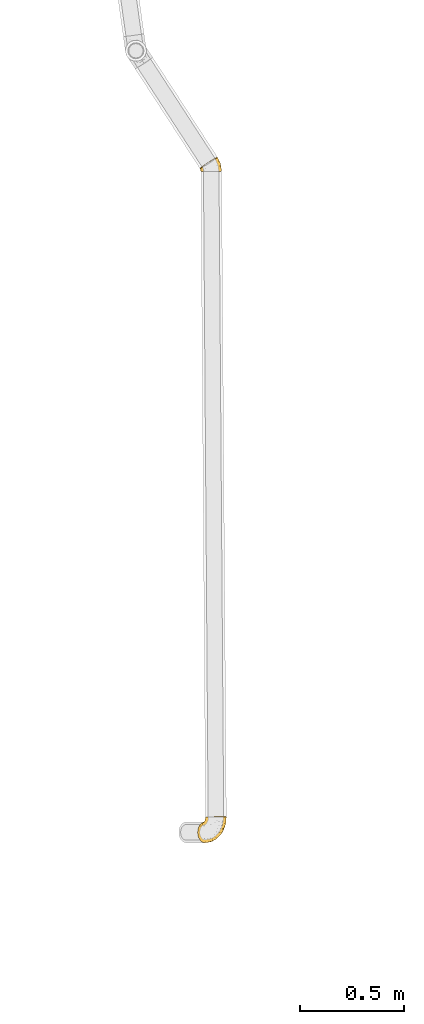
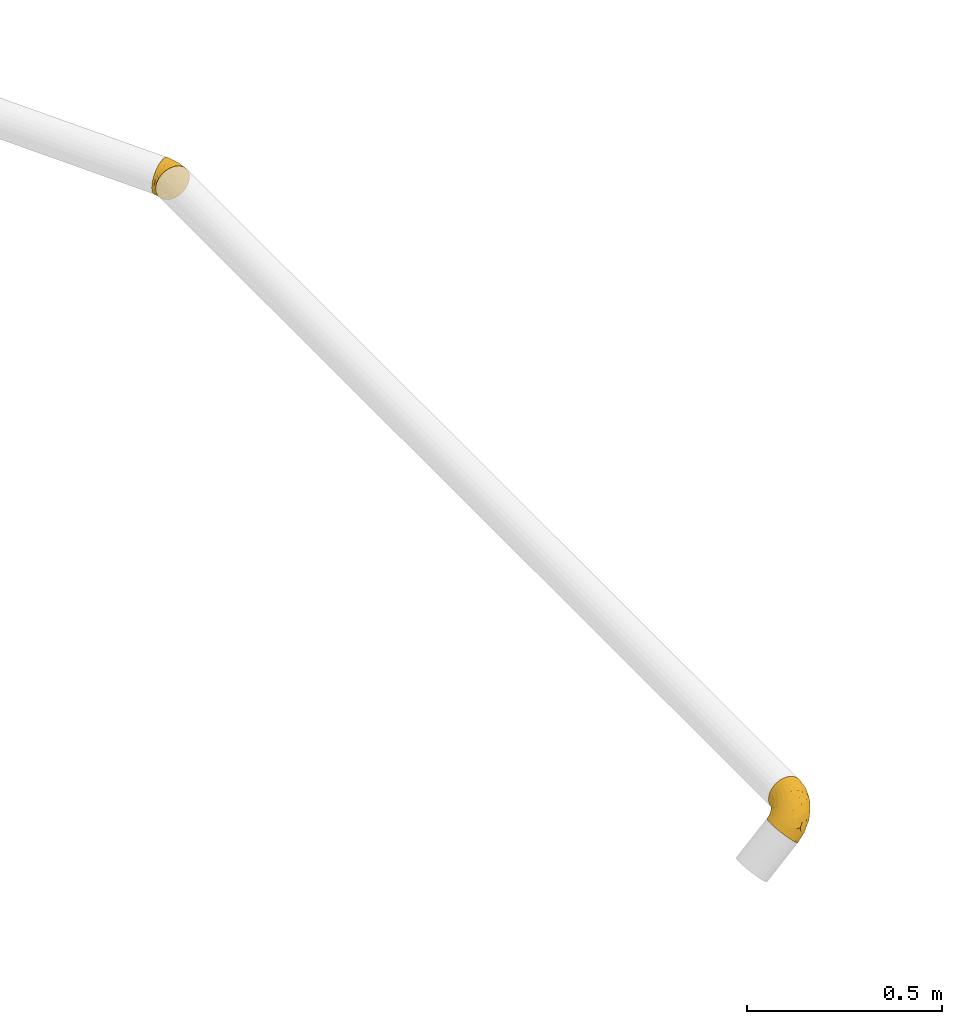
# One storey, part 37 of 156: 2 coverings.
"""IFC2X3 building model written with IfcOpenShell, lengths in millimetres."""

from ifc_helpers import new_model, entity, si_unit, converted_unit, derived_unit, direction, frame, origin_with_axes, place, context, subcontext, project, spatial, open_shell, surface_model, source, transform, mapped, element, save


model = new_model("IFC2X3")

# Units and contexts
model_context = context("Model", 3, precision=0.01, world=frame((0.0, 4.29681676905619e-09, 0.0)), true_north=direction((4.01073788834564e-13, 1.0)))
plan_context = context("Plan", 3, precision=0.01, world=frame((0.0, 4.29681676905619e-09, 0.0)), true_north=direction((4.01073788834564e-13, 1.0)))
body_context = subcontext(model_context, "Body", "Model", "MODEL_VIEW")
ifc_project = project(units=[converted_unit("PLANEANGLEUNIT", "DEGREE", entity("IfcPositiveLengthMeasure", 0.0174532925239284), si_unit("PLANEANGLEUNIT", "RADIAN"), dimensions=[0, 0, 0, 0, 0, 0, 0]), si_unit("AREAUNIT", "SQUARE_METRE"), si_unit("LENGTHUNIT", "METRE", prefix="MILLI"), si_unit("MASSUNIT", "GRAM", prefix="KILO"), si_unit("POWERUNIT", "WATT"), si_unit("PRESSUREUNIT", "PASCAL", prefix="KILO"), si_unit("FORCEUNIT", "NEWTON", prefix="KILO"), si_unit("ELECTRICVOLTAGEUNIT", "VOLT"), si_unit("ELECTRICCURRENTUNIT", "AMPERE"), si_unit("THERMODYNAMICTEMPERATUREUNIT", "DEGREE_CELSIUS"), si_unit("TIMEUNIT", "SECOND"), si_unit("VOLUMEUNIT", "CUBIC_METRE"), derived_unit("LINEARVELOCITYUNIT", [(si_unit("LENGTHUNIT", "METRE"), 1), (si_unit("TIMEUNIT", "SECOND"), -1)]), derived_unit("VOLUMETRICFLOWRATEUNIT", [(si_unit("VOLUMEUNIT", "CUBIC_METRE"), 1), (si_unit("TIMEUNIT", "SECOND"), -1)]), derived_unit("THERMALTRANSMITTANCEUNIT", [(si_unit("POWERUNIT", "WATT"), 1), (si_unit("THERMODYNAMICTEMPERATUREUNIT", "KELVIN"), -1), (si_unit("AREAUNIT", "SQUARE_METRE"), -1)]), derived_unit("SOUNDPRESSUREUNIT", [(si_unit("PRESSUREUNIT", "PASCAL"), 1)])], contexts=[model_context, plan_context])

# Site, building, storey
site_placement = place(None, frame((0.0, -4.29681676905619e-09, 0.0), z_axis=(0.0, 0.0, 1.0), x_axis=(1.0, 0.0, 0.0)))
site = spatial("IfcSite", under=ifc_project, at=site_placement, CompositionType="ELEMENT")
building_placement = place(site_placement, frame((0.0, 4.29681676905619e-09, 0.0), z_axis=(0.0, 0.0, 1.0), x_axis=(1.0, 0.0, 0.0)))
building = spatial("IfcBuilding", under=site, at=building_placement, Name="mc-building", CompositionType="ELEMENT")
storey_placement = place(building_placement, frame((0.0, 0.0, 205200.0), z_axis=(0.0, 0.0, 1.0), x_axis=(1.0, 0.0, 0.0)))
storey = spatial("IfcBuildingStorey", under=building, at=storey_placement, Name="Nivå D + 1,2 m", CompositionType="ELEMENT", Elevation=205200.0)

# Coverings
shared_shape_1 = source(origin_with_axes(), body_context, "Body", "SurfaceModel", [
    surface_model("IfcShellBasedSurfaceModel", [(-48.98775, 74.9157, 11.24292), (-48.99049, 74.91571, -11.23089), (-50.25516, 74.91985, 0.0), (-39.23157, 74.88378, 31.49394), (-45.25028, 74.90347, 21.91909), (-21.65914, 74.82629, 45.50245), (-10.98626, 74.79137, 49.23533), (-31.23415, 74.85762, 39.48835), (0.24457, 74.75463, -50.5), (11.4754, 74.71789, -49.23533), (-39.24358, 74.88382, -31.47888), (-45.25763, 74.90349, -21.90382), (-31.2492, 74.85767, -39.47635), (-21.67441, 74.82634, -45.49509), (-10.99829, 74.79142, -49.23258), (31.73834, 74.6516, 39.47635), (0.24457, 74.75463, 50.5), (11.48743, 74.71785, 49.23258), (22.16354, 74.68292, 45.49509), (39.73271, 74.62544, 31.47888), (45.74677, 74.60577, 21.90382), (49.47688, 74.59356, -11.24292), (50.7443, 74.58942, 0.0), (49.47963, 74.59355, 11.23089), (22.14827, 74.68297, -45.50245), (45.73941, 74.60579, -21.91909), (31.72328, 74.65165, -39.48835), (39.7207, 74.62548, -31.49394), (-74.75503, 25.25, -43.73428), (-74.75503, 50.5, 0.0), (-74.75503, 48.77925, -13.07036), (-74.75503, 43.73428, -25.25), (-74.75503, 13.07036, 48.77925), (-74.75503, 35.70889, -35.70889), (-74.75503, 13.07036, -48.77925), (-74.75503, 48.77925, 13.07036), (-74.75503, 35.70889, 35.70889), (-74.75503, 43.73428, 25.25), (-74.75503, 25.25, 43.73428), (-74.75503, 0.0, 50.5), (-74.75503, 0.0, -50.5), (-74.75503, -35.70889, -35.70889), (-74.75503, -13.07036, -48.77925), (-74.75503, -25.25, -43.73428), (-74.75503, -25.25, 43.73428), (-74.75503, -43.73428, -25.25), (-74.75503, -48.77925, -13.07036), (-74.75503, -50.5, 0.0), (-74.75503, -35.70889, 35.70889), (-74.75503, -13.07036, 48.77925), (-74.75503, -43.73428, 25.25), (-74.75503, -48.77925, 13.07036), (12.75535, -12.79714, 0.0), (26.6316, 1.03379, 0.0), (11.75195, -11.79046, 17.03532), (-36.05151, -44.38294, 0.0), (-43.7556, -45.83108, 8.70428), (-49.91662, -46.57431, 0.0), (-13.79748, -32.43133, 14.00038), (4.4827, -11.57367, 27.49164), (-44.98681, -43.62657, 17.67843), (-26.87158, -32.28674, 27.29612), (-52.44337, -39.03448, 29.20756), (6.31107, 52.66407, 49.67573), (-19.52583, -0.89203, 46.84567), (-49.22375, -19.06295, 45.22736), (-23.02412, -15.50791, 41.16758), (-49.54615, -7.34927, 49.26018), (-44.59932, -29.06621, 37.92368), (33.78359, 44.37237, 33.51324), (26.80889, 51.98819, 41.24577), (21.13886, 24.91454, 38.06501), (-4.09265, 24.5619, 49.09797), (-5.5347, 46.12881, 50.5), (-21.80885, 21.88031, 50.5), (0.32955, 8.08098, 43.54351), (35.52647, 17.51232, 10.64291), (44.50065, 35.90611, 0.0), (44.62707, 44.66657, 15.145), (-46.11046, 5.68558, 50.5), (-26.96426, 6.57495, 49.78595), (33.1334, 22.94325, 23.32467), (41.72549, 52.47035, 25.41371), (46.73737, 49.76398, 0.0), (22.61414, 3.88102, 21.74956), (19.73171, 8.65137, 30.22636), (-1.12091, -26.62808, 0.0), (12.19593, 30.86945, 45.20622), (17.91503, 53.56922, 46.32066), (3.13902, -2.59367, 36.45522), (-13.2829, -19.34864, 33.70331), (-18.58621, -35.50551, 0.0), (35.56613, 18.46995, 0.0), (-48.30589, 68.0923, 16.68598), (-55.0569, 12.69205, 49.56894), (-58.63635, 3.19935, 50.5), (-38.13334, 29.95894, 47.57058), (-23.43751, 41.39653, 48.61763), (-36.73224, 65.07056, 35.7157), (-27.52268, 65.69707, 42.76423), (-61.30491, 42.75726, 30.74245), (-63.60296, 32.17055, 40.06434), (-51.21747, 36.19832, 40.90311), (-45.26181, 61.96482, 26.87553), (-43.11743, 68.76878, 26.87553), (-36.28927, 43.5144, 43.71043), (-65.02892, 51.46467, 9.82939), (-62.52818, 53.76903, 0.0), (-68.6416, 52.13452, 0.0), (-51.65168, 69.76423, 0.0), (-64.39883, 17.95338, 47.5451), (-67.3961, 47.62788, 19.32551), (-68.64066, 40.60357, 30.74245), (-44.19242, 19.83118, 49.07032), (-54.5788, 23.11004, 46.65592), (-18.31975, 60.26241, 47.66853), (-54.36934, 48.87746, 28.24211), (-62.45572, 49.78563, 18.61024), (-3.0075, 58.64651, 50.5), (-60.80429, 53.85357, 9.13816), (-30.72396, 55.53966, 42.76423), (-40.12692, 56.42073, 35.71531), (-51.99017, 61.05724, 14.72775), (-53.56418, 62.70375, 0.0), (-56.49704, 57.01654, 10.61072), (-58.04618, 58.23639, 0.0), (-13.67177, 34.00456, 50.5), (-69.97433, 50.05017, 9.51101), (-46.83005, 47.35002, 35.7157), (-50.42355, 55.07559, 25.56384), (-52.69071, 43.17124, 35.13738), (-58.0392, 52.78766, 17.95423), (-33.95965, 13.78295, 50.5), (-51.56413, 52.55064, -26.92542), (-56.90914, 45.70887, -29.89495), (-56.69952, 53.96274, -17.7522), (-60.3038, 21.23374, -46.65592), (-69.83735, 47.08578, -19.32551), (-67.60434, 50.44775, -10.35171), (-63.91535, 48.81053, -19.32551), (-18.33454, 60.26049, -47.6637), (-62.62636, 52.46425, -10.44638), (-57.72381, 34.15067, -40.06435), (-65.71608, 41.25393, -30.74245), (-43.12751, 68.76745, -26.8602), (-48.31087, 68.09236, -16.67216), (-45.27291, 61.96352, -26.8602), (-36.74611, 65.07134, -35.70208), (-55.01361, 12.55511, -49.59669), (-51.99022, 61.06437, -14.7154), (-67.01378, 31.42474, -40.06434), (-55.78387, 57.96816, -9.97461), (-3.0075, 58.64651, -50.5), (-50.91717, 25.56752, -46.31884), (-41.20728, 29.23709, -47.08406), (-44.41571, 19.15189, -49.18645), (-23.45476, 41.38051, -48.61604), (-31.40339, 46.01473, -45.03419), (-38.66299, 50.10227, -39.74571), (-30.74153, 55.53783, -42.7546), (-27.53857, 65.6957, -42.7546), (-44.70037, 54.99913, -32.2049), (-40.32778, 40.64663, -43.07146), (-31.75317, 34.02371, -48.0297), (-5.5347, 46.12881, -50.5), (-21.80885, 21.88031, -50.5), (-13.67177, 34.00456, -50.5), (-32.85227, 23.79205, -49.72154), (-58.63635, 3.19935, -50.5), (-49.79004, 39.20987, -39.58042), (-46.85029, 47.34893, -35.70209), (-69.59487, 51.87965, 0.0), (-49.17064, 57.75921, -24.5183), (-46.11046, 5.68558, -50.5), (-33.95965, 13.78295, -50.5), (-26.96753, 6.57818, -49.78671), (-44.59521, -29.06539, -37.92337), (-49.2232, -19.06287, -45.22733), (-23.01332, -15.50118, -41.16792), (3.13117, -2.58469, -36.46663), (0.32262, 8.09091, -43.55043), (21.1276, 24.9208, -38.07624), (19.7243, 8.65847, -30.23995), (-4.09795, 24.56723, -49.09976), (-49.54615, -7.34927, -49.26018), (-43.75558, -45.8311, -8.70419), (-44.98268, -43.62563, -17.6782), (-19.5312, -0.88656, -46.84873), (12.18432, 30.87487, -45.21259), (-52.43706, -39.03357, -29.20712), (-26.86084, -32.28255, -27.29527), (11.75108, -11.78959, -17.03875), (4.46932, -11.57843, -27.50015), (6.3056, 52.66933, -49.67695), (-13.79452, -32.43031, -13.9984), (44.62261, 44.66567, -15.15806), (33.77111, 44.37242, -33.52679), (35.5179, 17.5012, -10.6543), (26.79442, 51.98869, -41.2558), (22.6049, 3.87906, -21.76277), (33.12635, 22.94607, -23.33922), (41.71583, 52.46521, -25.42832), (-13.26428, -19.32547, -33.71362), (17.90054, 53.57198, -46.32706)], [open_shell([[[0, 1, 2]], [[3, 0, 4]], [[5, 6, 7]], [[0, 7, 8]], [[0, 3, 7]], [[7, 9, 8]], [[1, 10, 11]], [[10, 1, 12]], [[13, 12, 14]], [[14, 12, 1]], [[0, 14, 1]], [[0, 8, 14]], [[7, 6, 9]], [[15, 16, 17]], [[15, 17, 18]], [[15, 19, 20]], [[20, 21, 16]], [[20, 16, 15]], [[22, 20, 23]], [[24, 25, 26]], [[21, 24, 9]], [[21, 25, 24]], [[27, 26, 25]], [[16, 21, 9]], [[20, 22, 21]], [[16, 9, 6]], [[28, 29, 30]], [[28, 30, 31]], [[29, 28, 32]], [[28, 31, 33]], [[32, 28, 34]], [[35, 36, 37]], [[36, 35, 32]], [[36, 32, 38]], [[35, 29, 32]], [[34, 39, 32]], [[34, 40, 39]], [[41, 40, 42]], [[41, 42, 43]], [[44, 41, 45]], [[41, 44, 39]], [[46, 47, 45]], [[44, 47, 48]], [[49, 39, 44]], [[50, 47, 51]], [[47, 50, 48]], [[45, 47, 44]], [[39, 40, 41]], [[52, 53, 54]], [[55, 56, 57]], [[58, 54, 59]], [[60, 61, 62]], [[63, 17, 16]], [[64, 65, 66]], [[50, 51, 60]], [[49, 65, 67]], [[48, 68, 44]], [[62, 48, 50]], [[69, 70, 71]], [[70, 15, 18]], [[72, 73, 74]], [[39, 49, 67]], [[64, 66, 75]], [[76, 77, 78]], [[79, 80, 74]], [[76, 78, 81]], [[70, 69, 15]], [[65, 44, 68]], [[20, 78, 23]], [[48, 62, 68]], [[20, 19, 82]], [[78, 83, 23]], [[80, 72, 74]], [[58, 61, 60]], [[54, 84, 59]], [[69, 19, 15]], [[63, 16, 73]], [[69, 71, 85]], [[51, 57, 56]], [[54, 86, 52]], [[87, 88, 63]], [[87, 70, 88]], [[44, 65, 49]], [[59, 89, 90]], [[81, 78, 82]], [[56, 91, 58]], [[81, 69, 85]], [[82, 78, 20]], [[75, 72, 64]], [[60, 62, 50]], [[58, 60, 56]], [[54, 58, 86]], [[88, 70, 18]], [[71, 70, 87]], [[75, 71, 87]], [[71, 89, 85]], [[19, 69, 82]], [[81, 82, 69]], [[66, 65, 68]], [[64, 80, 67]], [[90, 68, 61]], [[75, 66, 89]], [[64, 67, 65]], [[39, 67, 79]], [[73, 72, 63]], [[87, 63, 72]], [[76, 81, 84]], [[76, 53, 92]], [[18, 17, 88]], [[63, 88, 17]], [[83, 78, 77]], [[83, 22, 23]], [[68, 62, 61]], [[51, 47, 57]], [[51, 56, 60]], [[59, 85, 89]], [[84, 81, 85]], [[90, 89, 66]], [[58, 59, 61]], [[68, 90, 66]], [[61, 59, 90]], [[59, 84, 85]], [[76, 84, 54]], [[67, 80, 79]], [[72, 80, 64]], [[71, 75, 89]], [[72, 75, 87]], [[54, 53, 76]], [[91, 56, 55]], [[91, 86, 58]], [[77, 76, 92]], [[4, 0, 93]], [[79, 94, 95]], [[96, 74, 97]], [[94, 32, 95]], [[98, 99, 7]], [[100, 101, 102]], [[103, 104, 93]], [[105, 102, 96]], [[106, 107, 108]], [[0, 109, 93]], [[110, 101, 38]], [[37, 111, 35]], [[36, 112, 37]], [[37, 112, 111]], [[0, 2, 109]], [[113, 96, 114]], [[97, 73, 115]], [[100, 116, 117]], [[98, 7, 3]], [[5, 99, 115]], [[32, 94, 110]], [[3, 4, 104]], [[115, 118, 6]], [[5, 115, 6]], [[106, 119, 107]], [[120, 99, 98]], [[121, 120, 98]], [[103, 93, 122]], [[93, 123, 122]], [[124, 123, 125]], [[97, 115, 120]], [[104, 98, 3]], [[38, 101, 36]], [[121, 98, 103]], [[97, 105, 96]], [[5, 7, 99]], [[97, 74, 126]], [[123, 93, 109]], [[111, 106, 127]], [[128, 129, 116]], [[129, 103, 122]], [[102, 101, 114]], [[112, 101, 100]], [[125, 119, 124]], [[129, 128, 121]], [[96, 102, 114]], [[130, 128, 116]], [[113, 114, 94]], [[97, 120, 105]], [[118, 115, 73]], [[118, 16, 6]], [[35, 127, 29]], [[115, 99, 120]], [[93, 104, 4]], [[98, 104, 103]], [[124, 129, 122]], [[119, 125, 107]], [[116, 129, 131]], [[32, 39, 95]], [[132, 113, 79]], [[94, 114, 110]], [[96, 132, 74]], [[79, 113, 94]], [[132, 96, 113]], [[101, 110, 114]], [[38, 32, 110]], [[127, 106, 108]], [[117, 106, 111]], [[121, 105, 120]], [[102, 105, 128]], [[29, 127, 108]], [[111, 127, 35]], [[129, 121, 103]], [[105, 121, 128]], [[117, 116, 131]], [[130, 100, 102]], [[101, 112, 36]], [[111, 112, 100]], [[100, 117, 111]], [[119, 117, 131]], [[117, 119, 106]], [[119, 131, 124]], [[129, 124, 131]], [[123, 124, 122]], [[100, 130, 116]], [[102, 128, 130]], [[126, 73, 97]], [[133, 134, 135]], [[28, 136, 34]], [[137, 138, 139]], [[140, 13, 14]], [[141, 138, 107]], [[134, 142, 143]], [[144, 145, 11]], [[146, 144, 147]], [[148, 34, 136]], [[145, 146, 149]], [[150, 28, 33]], [[31, 137, 143]], [[125, 151, 141]], [[28, 150, 136]], [[109, 2, 1]], [[140, 14, 152]], [[149, 123, 145]], [[153, 154, 155]], [[145, 123, 109]], [[145, 1, 11]], [[137, 31, 30]], [[148, 153, 155]], [[140, 156, 157]], [[12, 147, 10]], [[158, 147, 159]], [[12, 13, 160]], [[158, 161, 147]], [[162, 157, 163]], [[164, 140, 152]], [[31, 143, 33]], [[160, 147, 12]], [[160, 140, 159]], [[162, 158, 157]], [[156, 140, 164]], [[165, 156, 166]], [[10, 144, 11]], [[154, 167, 155]], [[109, 1, 145]], [[34, 148, 168]], [[162, 169, 170]], [[141, 151, 135]], [[30, 29, 171]], [[134, 143, 139]], [[150, 143, 142]], [[146, 161, 172]], [[149, 135, 151]], [[14, 8, 152]], [[140, 160, 13]], [[147, 160, 159]], [[147, 144, 10]], [[145, 144, 146]], [[135, 134, 139]], [[134, 170, 169]], [[141, 139, 138]], [[161, 133, 172]], [[168, 148, 173]], [[168, 40, 34]], [[167, 165, 174]], [[174, 173, 155]], [[148, 155, 173]], [[163, 167, 154]], [[174, 155, 167]], [[153, 148, 136]], [[136, 142, 153]], [[169, 153, 142]], [[162, 163, 154]], [[163, 156, 165]], [[154, 153, 169]], [[158, 162, 170]], [[154, 169, 162]], [[134, 169, 142]], [[161, 158, 170]], [[157, 158, 159]], [[133, 161, 170]], [[147, 161, 146]], [[134, 133, 170]], [[172, 135, 149]], [[140, 157, 159]], [[157, 156, 163]], [[135, 172, 133]], [[149, 151, 123]], [[149, 146, 172]], [[143, 150, 33]], [[136, 150, 142]], [[138, 30, 171]], [[143, 137, 139]], [[30, 138, 137]], [[107, 138, 171]], [[125, 141, 107]], [[135, 139, 141]], [[156, 164, 166]], [[165, 167, 163]], [[123, 151, 125]], [[173, 165, 175]], [[176, 177, 178]], [[179, 178, 180]], [[179, 181, 182]], [[165, 164, 183]], [[173, 184, 40]], [[177, 43, 42]], [[176, 43, 177]], [[185, 46, 186]], [[175, 183, 187]], [[180, 183, 188]], [[189, 186, 45]], [[45, 186, 46]], [[189, 176, 190]], [[52, 86, 191]], [[176, 41, 43]], [[182, 192, 179]], [[188, 183, 193]], [[8, 193, 164]], [[190, 194, 186]], [[8, 9, 193]], [[25, 21, 195]], [[27, 196, 26]], [[197, 77, 92]], [[195, 21, 83]], [[196, 198, 26]], [[192, 194, 190]], [[197, 191, 199]], [[200, 195, 197]], [[27, 25, 201]], [[188, 198, 181]], [[201, 25, 195]], [[77, 195, 83]], [[187, 177, 184]], [[176, 178, 202]], [[201, 200, 196]], [[182, 181, 196]], [[189, 45, 41]], [[26, 198, 24]], [[24, 198, 203]], [[46, 185, 57]], [[194, 91, 185]], [[191, 53, 52]], [[91, 55, 185]], [[181, 198, 196]], [[203, 198, 188]], [[182, 196, 200]], [[180, 181, 179]], [[200, 201, 195]], [[196, 27, 201]], [[184, 177, 42]], [[178, 177, 187]], [[180, 178, 187]], [[179, 192, 202]], [[40, 184, 42]], [[184, 173, 175]], [[193, 9, 203]], [[183, 164, 193]], [[77, 197, 195]], [[197, 53, 191]], [[193, 203, 188]], [[9, 24, 203]], [[21, 22, 83]], [[176, 189, 41]], [[186, 189, 190]], [[57, 185, 55]], [[57, 47, 46]], [[194, 185, 186]], [[200, 199, 182]], [[182, 199, 192]], [[194, 192, 191]], [[179, 202, 178]], [[192, 190, 202]], [[176, 202, 190]], [[197, 199, 200]], [[192, 199, 191]], [[183, 175, 165]], [[184, 175, 187]], [[183, 180, 187]], [[181, 180, 188]], [[191, 86, 194]], [[194, 86, 91]], [[92, 53, 197]]])]),
])
covering_1_placement = place(storey_placement, frame((341614.64679, 461168.61783, 4139.72772), z_axis=(-0.70617988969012, -0.0135969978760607, 0.707901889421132), x_axis=(0.707967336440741, -8.08001194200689e-09, 0.706245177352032)))
element("IfcCovering", 1, at=covering_1_placement, inside=storey, Name="BI17T - Cellegummi 13 mm SPV fett", PredefinedType="INSULATION", context=body_context, shape_type="MappedRepresentation", body=[
    mapped(shared_shape_1, transform((0.0, 0.0, 0.0), scale=1.0)),
])
shared_shape_2 = source(origin_with_axes(), body_context, "Body", "SurfaceModel", [
    surface_model("IfcShellBasedSurfaceModel", [(-8.08811, 53.3209, 11.24292), (-8.08959, 53.32321, -11.23089), (-8.77316, 54.38723, 0.0), (-2.81476, 45.11262, 31.49394), (-6.06796, 50.17641, 21.91909), (6.68336, 30.32819, 45.50245), (12.45219, 21.34866, 49.23533), (1.50795, 38.38405, 39.48835), (43.11713, -26.38323, 21.90382), (-2.82125, 45.12272, -31.47888), (-6.07193, 50.1826, -21.90382), (6.67511, 30.34104, -45.49509), (1.49981, 38.39672, -39.47635), (18.5226, 11.89969, -50.5), (12.44569, 21.35878, -49.23258), (45.13331, -29.52153, -11.24292), (24.59951, 2.44059, 49.23258), (35.54539, -14.59734, 39.47635), (30.37009, -6.54167, 45.49509), (39.86645, -21.32335, 31.47888), (45.13479, -29.52384, 11.23089), (30.36184, -6.52882, -45.50245), (39.85996, -21.31325, -31.49394), (35.53725, -14.58468, -39.48835), (24.59301, 2.45072, -49.23533), (43.11316, -26.37704, -21.91909), (45.81836, -30.58786, 0.0), (18.5226, 11.89969, 50.5), (-22.01566, 25.25, -43.73428), (-22.01566, 50.5, 0.0), (-22.01566, 48.77925, -13.07036), (-22.01566, 43.73428, -25.25), (-22.01566, 13.07036, 48.77925), (-22.01566, 35.70889, -35.70889), (-22.01566, 13.07036, -48.77925), (-22.01566, 48.77925, 13.07036), (-22.01566, 35.70889, 35.70889), (-22.01566, 43.73428, 25.25), (-22.01566, 25.25, 43.73428), (-22.01566, 0.0, 50.5), (-22.01566, 0.0, -50.5), (-22.01566, -35.70889, -35.70889), (-22.01566, -13.07036, -48.77925), (-22.01566, -25.25, -43.73428), (-22.01566, -25.25, 43.73428), (-22.01566, -43.73428, -25.25), (-22.01566, -48.77925, -13.07036), (-22.01566, -50.5, 0.0), (-22.01566, -35.70889, 35.70889), (-22.01566, -13.07036, 48.77925), (-22.01566, -43.73428, 25.25), (-22.01566, -48.77925, 13.07036), (4.97675, -14.0244, 47.17303), (2.49742, -25.01184, 42.04534), (3.6509, -40.41848, 26.0909), (10.54397, -31.65875, 34.88124), (13.70713, -42.57793, 16.04027), (25.08325, -33.24635, 26.4013), (6.19807, -4.25251, 49.66879), (13.33242, -45.41912, 0.0), (-0.89131, 3.03639, 50.5), (-15.11504, 51.49189, 0.0), (-14.15603, 48.81795, 16.68598), (-5.24384, 19.13549, 47.66853), (-4.86187, 29.98554, 42.78453), (-14.16707, 30.25674, 40.93475), (-14.65412, 43.58733, 26.90467), (-10.53217, 37.41735, 35.7157), (-14.84424, 38.24574, -33.76462), (-10.17533, 32.35569, -40.06434), (-0.89131, 3.03639, -50.5), (-5.24944, 19.14824, -47.6637), (-14.69867, 49.55619, -13.98481), (-7.44488, 39.59099, -34.67864), (-12.63331, 44.15982, -26.86021), (-4.13717, -7.29949, -49.65138), (4.97661, -14.01, -47.1783), (13.70495, -21.52767, -42.07666), (10.54028, -31.64621, -34.89492), (13.67656, -42.58268, -16.05325), (21.12212, -35.08481, -26.09556), (-0.8184, -39.94767, -28.21046)], [open_shell([[[0, 1, 2]], [[3, 0, 4]], [[5, 6, 7]], [[3, 7, 6]], [[6, 0, 3]], [[8, 1, 0]], [[1, 9, 10]], [[9, 1, 11]], [[12, 9, 11]], [[13, 14, 11]], [[11, 15, 13]], [[15, 11, 1]], [[16, 0, 6]], [[0, 16, 8]], [[17, 16, 18]], [[17, 19, 8]], [[15, 1, 8]], [[8, 16, 17]], [[15, 8, 20]], [[21, 22, 23]], [[15, 21, 24]], [[15, 22, 21]], [[25, 22, 15]], [[13, 15, 24]], [[20, 26, 15]], [[16, 6, 27]], [[28, 29, 30]], [[28, 30, 31]], [[29, 28, 32]], [[28, 31, 33]], [[32, 28, 34]], [[35, 36, 37]], [[36, 35, 32]], [[36, 32, 38]], [[35, 29, 32]], [[34, 39, 32]], [[34, 40, 39]], [[41, 40, 42]], [[41, 42, 43]], [[44, 41, 45]], [[41, 44, 39]], [[46, 47, 45]], [[44, 47, 48]], [[49, 39, 44]], [[50, 47, 51]], [[47, 50, 48]], [[45, 47, 44]], [[39, 40, 41]], [[18, 52, 53]], [[51, 54, 50]], [[49, 44, 52]], [[53, 48, 55]], [[54, 51, 56]], [[54, 48, 50]], [[57, 56, 8]], [[52, 58, 49]], [[55, 54, 57]], [[39, 49, 58]], [[16, 52, 18]], [[48, 54, 55]], [[51, 47, 59]], [[53, 52, 44]], [[19, 57, 8]], [[56, 20, 8]], [[26, 20, 59]], [[51, 59, 56]], [[56, 57, 54]], [[58, 27, 60]], [[18, 53, 17]], [[52, 16, 58]], [[48, 53, 44]], [[58, 60, 39]], [[55, 19, 17]], [[27, 58, 16]], [[17, 53, 55]], [[59, 20, 56]], [[55, 57, 19]], [[61, 62, 0]], [[32, 39, 60]], [[63, 64, 65]], [[63, 38, 32]], [[66, 67, 3]], [[63, 5, 64]], [[66, 62, 37]], [[67, 66, 36]], [[7, 64, 5]], [[36, 65, 67]], [[29, 35, 61]], [[63, 60, 6]], [[3, 67, 7]], [[3, 4, 66]], [[65, 36, 38]], [[6, 5, 63]], [[64, 7, 67]], [[60, 63, 32]], [[4, 0, 62]], [[62, 66, 4]], [[0, 2, 61]], [[65, 64, 67]], [[36, 66, 37]], [[35, 62, 61]], [[37, 62, 35]], [[63, 65, 38]], [[6, 60, 27]], [[68, 69, 33]], [[70, 71, 14]], [[72, 30, 61]], [[61, 30, 29]], [[73, 74, 9]], [[74, 68, 31]], [[71, 28, 69]], [[28, 33, 69]], [[1, 72, 61]], [[74, 73, 68]], [[40, 34, 70]], [[1, 10, 72]], [[9, 74, 10]], [[12, 69, 73]], [[72, 31, 30]], [[28, 71, 34]], [[10, 74, 72]], [[69, 68, 73]], [[11, 14, 71]], [[11, 71, 69]], [[14, 13, 70]], [[31, 68, 33]], [[34, 71, 70]], [[69, 12, 11]], [[31, 72, 74]], [[1, 61, 2]], [[12, 73, 9]], [[42, 75, 76]], [[43, 77, 78]], [[70, 75, 40]], [[45, 79, 46]], [[24, 75, 70]], [[43, 76, 77]], [[80, 81, 78]], [[78, 81, 41]], [[46, 59, 47]], [[75, 24, 76]], [[21, 77, 76]], [[21, 76, 24]], [[41, 81, 45]], [[77, 23, 78]], [[22, 80, 78]], [[79, 81, 80]], [[78, 23, 22]], [[25, 15, 79]], [[25, 79, 80]], [[15, 26, 59]], [[21, 23, 77]], [[43, 78, 41]], [[59, 79, 15]], [[43, 42, 76]], [[59, 46, 79]], [[81, 79, 45]], [[24, 70, 13]], [[40, 75, 42]], [[25, 80, 22]]])]),
])
covering_2_placement = place(storey_placement, frame((341591.27609, 464375.53834, 4178.01248999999), z_axis=(0.110567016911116, -0.0110580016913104, 0.993807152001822), x_axis=(-0.00728705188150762, 0.99990220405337, 0.0119365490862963)))
element("IfcCovering", 2, at=covering_2_placement, inside=storey, Name="BI17T - Cellegummi 13 mm SPV fett", PredefinedType="INSULATION", context=body_context, shape_type="MappedRepresentation", body=[
    mapped(shared_shape_2, transform((0.0, 0.0, 0.0), scale=1.0)),
])

save(model, "model.ifc")
